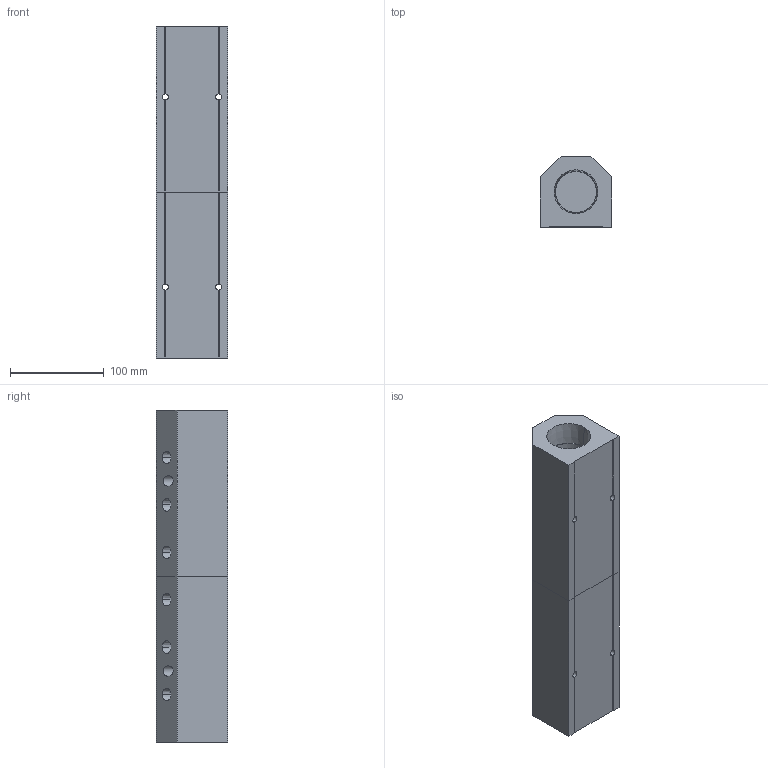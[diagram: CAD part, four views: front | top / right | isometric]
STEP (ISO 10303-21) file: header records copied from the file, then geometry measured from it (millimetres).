
FILE_DESCRIPTION (( 'STEP AP214' ), '1' );
FILE_NAME ('ALM6BD-N4N24-355RB.step', '2022-02-07T07:52:14', ( '' ), ( '' ), 'SwSTEP 2.0', 'SolidWorks 2020', '' );
FILE_SCHEMA (( 'AUTOMOTIVE_DESIGN' ));
Length unit declared in the file: millimetre
Products named in the file (1): ALM6BD-N4N24-355RB
Bounding box: 76.2 x 76.2 x 355 mm (x, y, z)
Volume: 1297163.2 mm3; surface area: 179501.5 mm2
Topology: 2 solids, 2 shells, 369 faces, 973 edges, 646 vertices
Faces by surface type: plane 244, bspline 77, cone 28, cylinder 20
Entity records: 20523 total; most frequent: CARTESIAN_POINT 8390, ORIENTED_EDGE 1946, DIRECTION 1429, EDGE_CURVE 973, LINE 715, VECTOR 715, VERTEX_POINT 646, EDGE_LOOP 439
